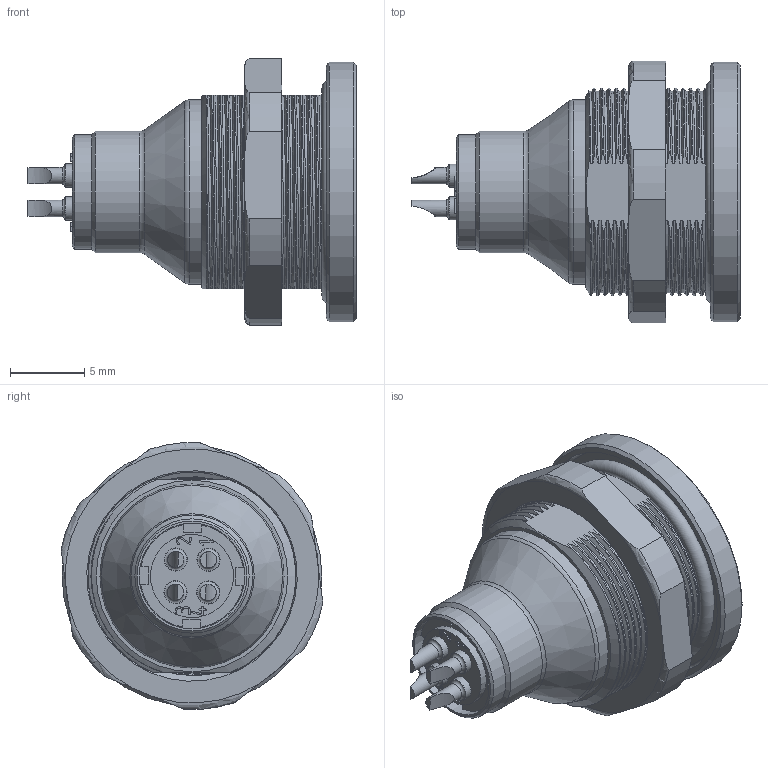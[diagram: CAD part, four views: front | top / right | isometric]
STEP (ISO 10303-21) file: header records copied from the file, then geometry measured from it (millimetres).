
FILE_DESCRIPTION(/* description */ (''),/* implementation_level */ '2;1');
FILE_NAME(/* name */ '09 4912 00 04 001_00-Flanschstecker.stp',/* time_stamp */ '2017-10-18T16:17:41+02:00',/* author */ (''),/* organization */ (''),/* preprocessor_version */ 'ST-DEVELOPER v16',/* originating_system */ 'SIEMENS PLM Software NX 11.0',/* authorisation */ '');
FILE_SCHEMA (('AUTOMOTIVE_DESIGN { 1 0 10303 214 3 1 1 1 }'));
Products named in the file (1): jbyc18A8B9A50q6j
Bounding box: 22.1 x 17.63 x 17.97 mm (x, y, z)
Volume: 1556.4 mm3; surface area: 2451.4 mm2
Topology: 2 solids, 2 shells, 368 faces, 976 edges, 638 vertices
Faces by surface type: cylinder 127, plane 101, bspline 78, torus 29, extrusion 17, cone 16
Full cylindrical faces by diameter (mm): 1.1 x8, 1.55 x4, 5.6 x1, 7.1 x1, 7.4 x3, 7.7 x1, 8.2 x1, 12.3 x2, 12.4 x1, 14.2 x1, 16.4 x1, 17.5 x1
Entity records: 46721 total; most frequent: CARTESIAN_POINT 38707, ORIENTED_EDGE 1812, DIRECTION 1273, EDGE_CURVE 906, VERTEX_POINT 617, AXIS2_PLACEMENT_3D 457, EDGE_LOOP 445, B_SPLINE_CURVE_WITH_KNOTS 399
